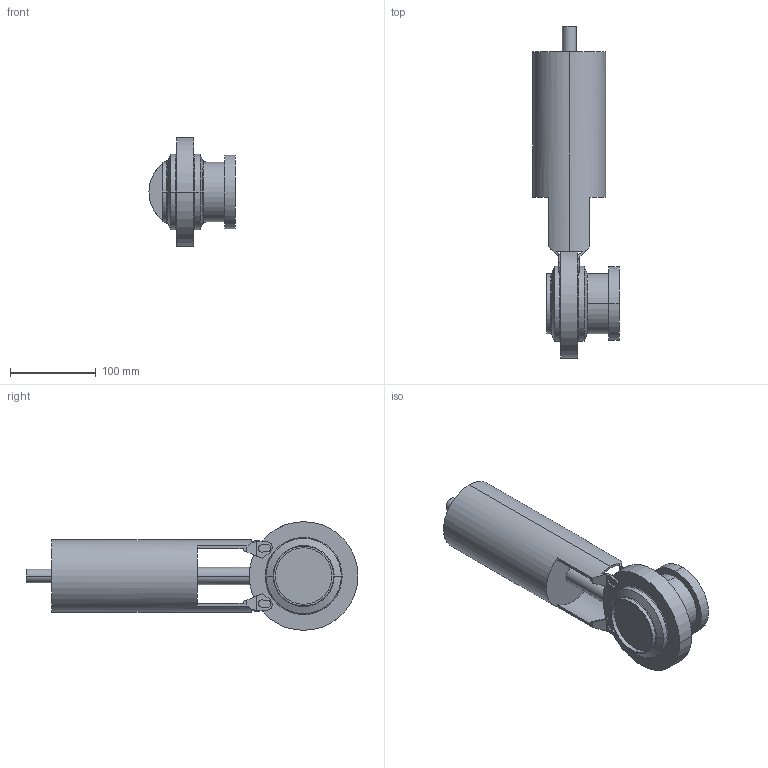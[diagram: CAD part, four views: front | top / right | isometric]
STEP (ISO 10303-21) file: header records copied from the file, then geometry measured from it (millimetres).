
FILE_DESCRIPTION(('Creo Elements/Direct Modeling STEP Export'),'2;1');
FILE_NAME('SV1-65-FZ-1S-2K.stp','2012-11-06T14:16:38',(''),(''),'Creo Elements/Direct Modeling STEP processor for AP214 (Solid Model)','Creo Elements/Direct Modeling 17.0D 15-Jul-2011 (C) Parametric Technology GmbH','');
FILE_SCHEMA(('AUTOMOTIVE_DESIGN { 1 0 10303 214 1 1 1 1 }'));
Length unit declared in the file: millimetre
Products named in the file (3): Luftanschluß; SV1-65-FZ-1S-2K
Assembly tree (2 placements, depth 2):
  SV1-65-FZ-1S-2K
    SV1-65-FZ-1S-2K
    Luftanschluß
Bounding box: 100.7 x 387.93 x 127 mm (x, y, z)
Volume: 1563558.6 mm3; surface area: 132054.5 mm2
Topology: 2 solids, 2 shells, 123 faces, 323 edges, 206 vertices
Faces by surface type: plane 75, cylinder 36, torus 8, cone 4
Entity records: 3730 total; most frequent: CARTESIAN_POINT 663, ORIENTED_EDGE 646, DIRECTION 607, EDGE_CURVE 323, AXIS2_PLACEMENT_3D 209, VERTEX_POINT 206, VECTOR 189, LINE 189
